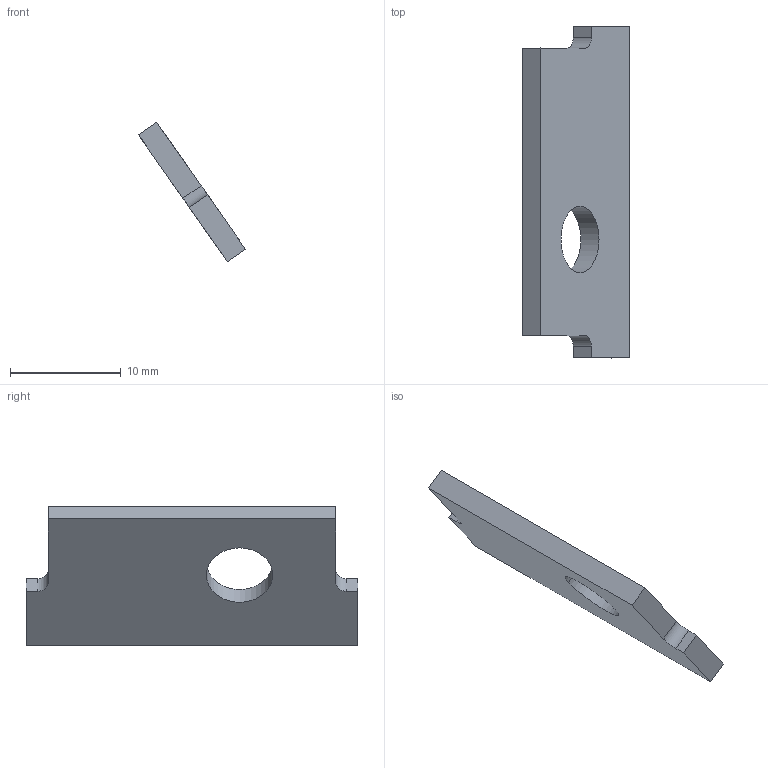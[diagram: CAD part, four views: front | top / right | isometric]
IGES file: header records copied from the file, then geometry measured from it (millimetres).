
Start section: START RECORD GO HERE.
Global section: file name: FR_11001_7 (Frame Throttle).igs; native system: IBM CATIA IGES - CATIA Version 5 Release 19 ; preprocessor: CATIA Version 5 Release 19 ; author: jacqu; organization: ASUS-TUF-JACQUE; date: 20200226.091626; units: millimetre
Bounding box: 9.67 x 30 x 12.62 mm (x, y, z)
Surface area: 932.3 mm2 (no closed solid volume)
Topology: 0 solids, 0 shells, 14 faces, 72 edges, 72 vertices
Faces by surface type: plane 10, revolution 4
